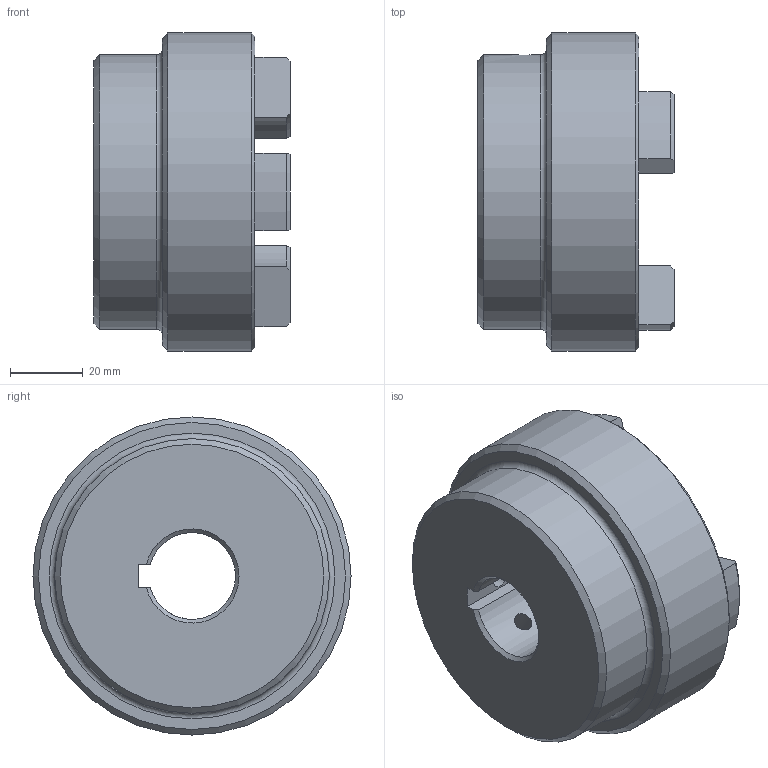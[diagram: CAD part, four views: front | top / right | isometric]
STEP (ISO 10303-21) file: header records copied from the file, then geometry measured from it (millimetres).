
FILE_DESCRIPTION (( 'STEP AP203' ), '1' );
FILE_NAME ('RC3.step', '2024-07-24T12:46:14', ( 'Adlan' ), ( '' ), 'SwSTEP 2.0', 'SolidWorks 2013', '' );
FILE_SCHEMA (( 'CONFIG_CONTROL_DESIGN' ));
Length unit declared in the file: inch
Products named in the file (1): RC3
Bounding box: 53.85 x 87.38 x 87.38 mm (x, y, z)
Volume: 180359.6 mm3; surface area: 30523.2 mm2
Topology: 1 solids, 1 shells, 67 faces, 168 edges, 105 vertices
Faces by surface type: cylinder 26, plane 16, torus 13, cone 12
Full cylindrical faces by diameter (mm): 5.105 x2, 75.438 x1, 87.376 x1
Entity records: 2237 total; most frequent: CARTESIAN_POINT 562, DIRECTION 354, ORIENTED_EDGE 310, EDGE_CURVE 155, AXIS2_PLACEMENT_3D 142, VERTEX_POINT 102, EDGE_LOOP 85, CIRCLE 74
